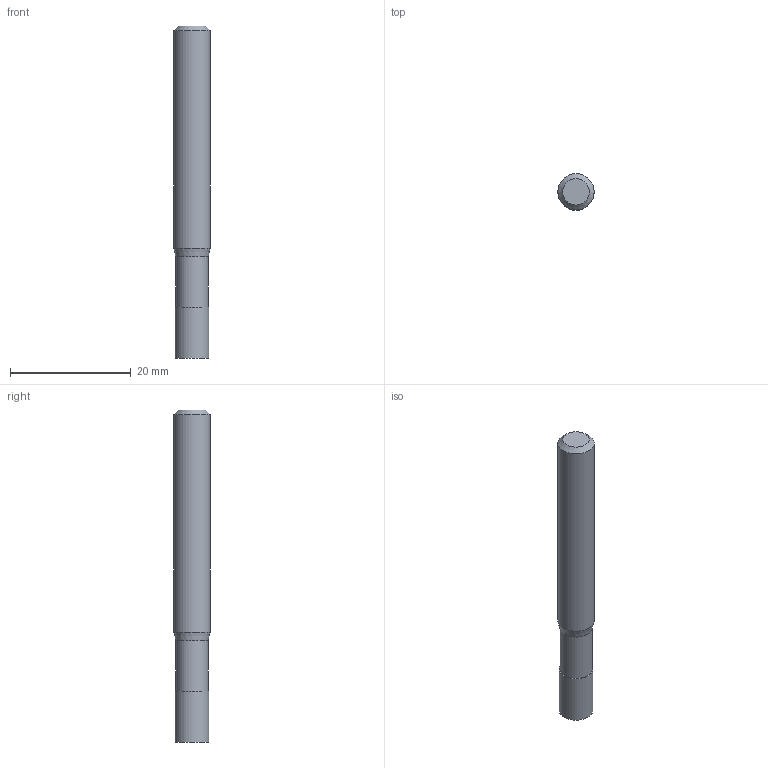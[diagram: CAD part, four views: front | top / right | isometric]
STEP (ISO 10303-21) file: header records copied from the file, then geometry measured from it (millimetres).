
FILE_DESCRIPTION((''),'2;1');
FILE_NAME('C:\Users\nsx150\AppData\Local\Temp\Mastercam 2021\EUJSUNXURU\TEMP.step','2021-04-22T10:28:42',(''),(''),'STEP Write','Mastercam 2021 ... CNC Software, Inc.','');
FILE_SCHEMA(('AUTOMOTIVE_DESIGN'));
Length unit declared in the file: millimetre
Products named in the file (1): None
Bounding box: 6 x 6 x 55 mm (x, y, z)
Volume: 1470 mm3; surface area: 1100.3 mm2
Topology: 2 solids, 2 shells, 9 faces, 12 edges, 7 vertices
Faces by surface type: plane 4, cylinder 3, cone 2
Full cylindrical faces by diameter (mm): 5.4 x1, 5.6 x1, 6 x1
Entity records: 211 total; most frequent: DIRECTION 36, CARTESIAN_POINT 25, AXIS2_PLACEMENT_3D 18, ORIENTED_EDGE 14, EDGE_LOOP 14, STYLED_ITEM 12, ADVANCED_FACE 9, FACE_BOUND 8
